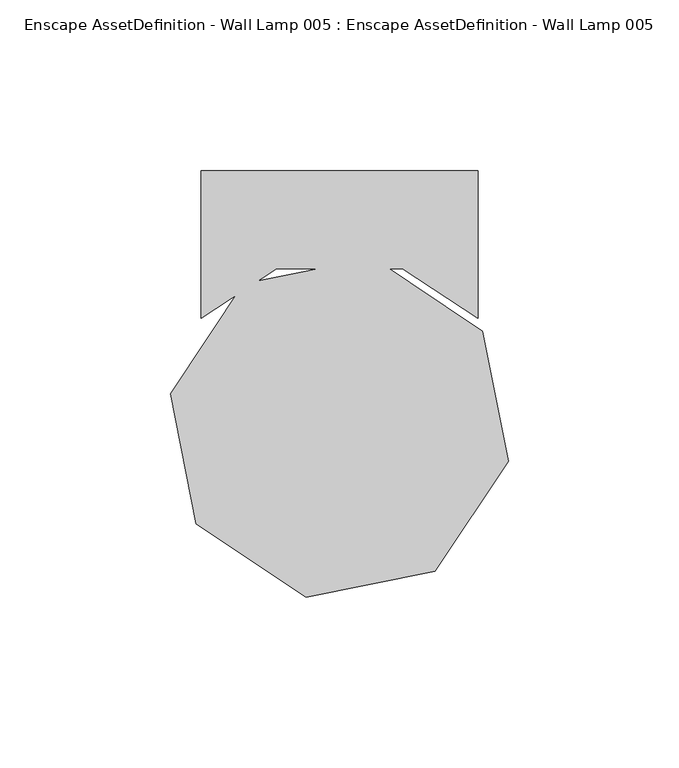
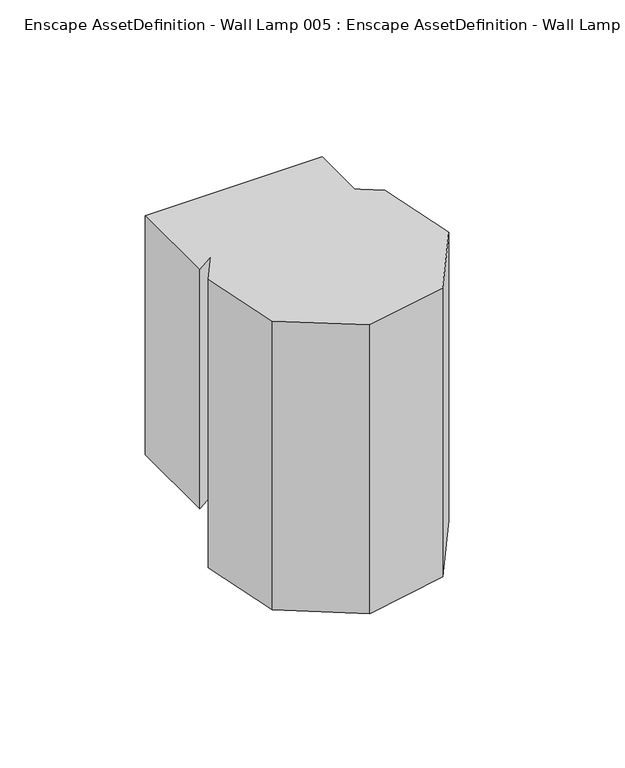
"""IFC4 building model written with IfcOpenShell, lengths in millimetres: geographic element geometry, Enscape AssetDefinition - Wall Lamp 005 : Enscape AssetDefinition - Wall Lamp 005."""

from ifc_helpers import new_model, si_unit, origin, place, context, project, spatial, triangles, source, transform, mapped, element, save


def enscape_assetdefinition_wall_lamp_005_enscape_8ec44021(model_context):
    return source(origin(), model_context, "Body", "Tessellation", [
        triangles([(-28.0560001, -33.1070022, 70.0000014), (41.9889977, -47.1009995, 70.0000014), (9.851999, -25.5339997, 70.0000014), (9.851999, -25.5339997, -70.0000014), (-49.5299982, -65.3849988, -70.0000014), (41.9889977, -47.1009995, -70.0000014), (-28.0560001, -33.1070022, -70.0000014), (-49.5299982, -65.3849988, 70.0000014), (49.5299982, -85.1749972, 70.0000014), (-41.9889977, -103.4580019, 70.0000014), (49.5299982, -85.1749972, -70.0000014), (28.0560001, -117.452006, 70.0000014), (28.0560001, -117.452006, -70.0000014), (-41.9889977, -103.4580019, -70.0000014), (-9.851999, -125.0250085, 70.0000014), (-9.851999, -125.0250085, -70.0000014), (40.578001, -43.327002, 58.0229981), (18.4940008, -28.7139995, -58.0229981), (40.578001, -43.327002, -58.0229981), (-40.578001, 0.0, -58.0229981), (-18.4940008, -28.7139995, -58.0229981), (40.578001, 0.0, 58.0229981), (-40.578001, 0.0, 58.0229981), (-18.4940008, -28.7139995, 58.0229981), (-40.578001, -43.327002, -58.0229981), (-40.578001, -43.327002, 58.0229981), (18.4940008, -28.7139995, 58.0229981), (40.578001, 0.0, -58.0229981)], [[17, 19, 28], [28, 18, 21], [21, 25, 20], [28, 19, 18], [21, 18, 27], [24, 26, 25], [25, 26, 23], [17, 27, 18], [23, 24, 22], [27, 17, 22], [23, 26, 24], [20, 23, 22], [17, 28, 22], [28, 21, 20], [21, 27, 24], [24, 25, 21], [25, 23, 20], [17, 18, 19], [24, 27, 22], [20, 22, 28], [15, 16, 13], [15, 13, 12], [10, 15, 12], [10, 16, 15], [10, 14, 16], [13, 16, 14], [11, 13, 14], [12, 13, 11], [12, 9, 10], [12, 11, 9], [8, 10, 9], [14, 5, 11], [10, 8, 5], [10, 5, 14], [6, 11, 5], [9, 11, 6], [2, 8, 9], [2, 6, 4], [9, 6, 2], [1, 8, 2], [1, 5, 8], [1, 7, 5], [7, 4, 6], [5, 7, 6], [3, 4, 7], [2, 3, 1], [2, 4, 3], [3, 7, 1]]),
    ])


if __name__ == "__main__":
    model = new_model("IFC4")
    model_context = context("Model", 3, world=origin())
    ifc_project = project(units=[si_unit("LENGTHUNIT", "METRE", prefix="MILLI")], contexts=[model_context])
    site = spatial("IfcSite", under=ifc_project)
    building = spatial("IfcBuilding", under=site)
    placement = place(None, origin())
    enscape_assetdefinition_wall_lamp_005_enscape_shape = enscape_assetdefinition_wall_lamp_005_enscape_8ec44021(model_context)
    element("IfcGeographicElement", 1, ObjectType="Enscape AssetDefinition - Wall Lamp 005 : Enscape AssetDefinition - Wall Lamp 005", at=placement, inside=building, context=model_context, shape_type="MappedRepresentation", body=[
        mapped(enscape_assetdefinition_wall_lamp_005_enscape_shape, transform((0.0, 0.0, 0.0), x_axis=(1.0, 0.0, 0.0), y_axis=(0.0, 1.0, 0.0), z_axis=(0.0, 0.0, 1.0))),
    ])
    save(model, "model.ifc")
